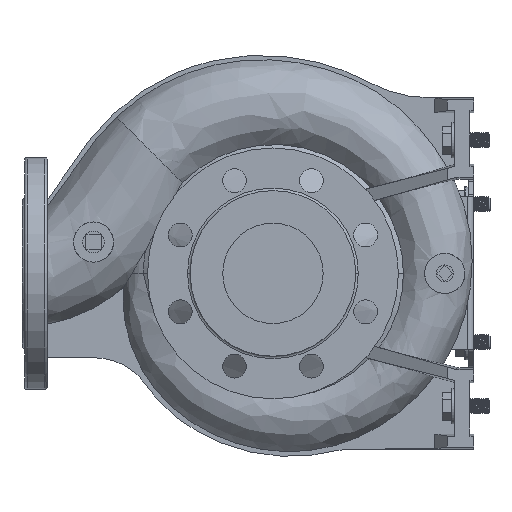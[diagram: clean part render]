
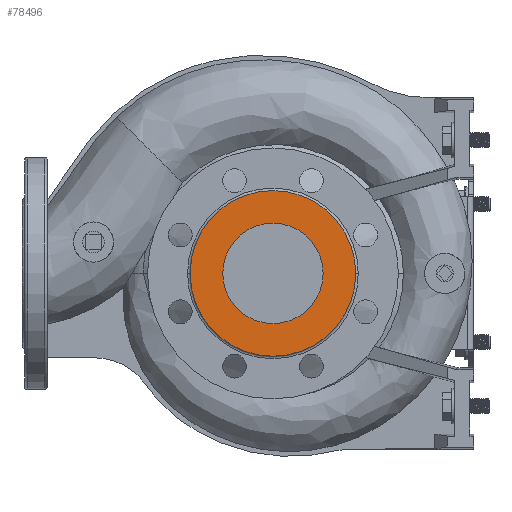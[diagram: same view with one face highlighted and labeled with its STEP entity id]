
A CAD part, left-side view. The second image highlights one B-rep face of the part: STEP entity #78496.
In plain terms, the highlighted planar face has unit normal (-1, 0, 0).
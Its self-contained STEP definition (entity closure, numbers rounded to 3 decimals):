
#5724 = EDGE_LOOP ( 'NONE', ( #145766, #117015 ) ) ;
#10283 = VERTEX_POINT ( 'NONE', #70805 ) ;
#15255 = DIRECTION ( 'NONE',  ( 1., 0., 0. ) ) ;
#17214 = ORIENTED_EDGE ( 'NONE', *, *, #145870, .F. ) ;
#22534 = EDGE_CURVE ( 'NONE', #10283, #36223, #121481, .T. ) ;
#22563 = CARTESIAN_POINT ( 'NONE',  ( -100., -66., 0. ) ) ;
#25198 = VERTEX_POINT ( 'NONE', #22563 ) ;
#30906 = AXIS2_PLACEMENT_3D ( 'NONE', #174457, #67797, #38434 ) ;
#35270 = PLANE ( 'NONE',  #93888 ) ;
#36223 = VERTEX_POINT ( 'NONE', #95816 ) ;
#38434 = DIRECTION ( 'NONE',  ( 0., 1., 0. ) ) ;
#40173 = AXIS2_PLACEMENT_3D ( 'NONE', #89884, #179965, #149645 ) ;
#43651 = DIRECTION ( 'NONE',  ( 0., 1., 0. ) ) ;
#48048 = DIRECTION ( 'NONE',  ( -1., 0., 0. ) ) ;
#55916 = AXIS2_PLACEMENT_3D ( 'NONE', #133612, #190416, #160122 ) ;
#61759 = FACE_OUTER_BOUND ( 'NONE', #149338, .T. ) ;
#67023 = CIRCLE ( 'NONE', #176435, 66. ) ;
#67797 = DIRECTION ( 'NONE',  ( 1., 0., 0. ) ) ;
#70805 = CARTESIAN_POINT ( 'NONE',  ( -100., -40., 0. ) ) ;
#72701 = EDGE_CURVE ( 'NONE', #36223, #10283, #140321, .T. ) ;
#78496 = ADVANCED_FACE ( 'NONE', ( #167461, #61759 ), #35270, .T. ) ;
#89884 = CARTESIAN_POINT ( 'NONE',  ( -100., 0., 0. ) ) ;
#93046 = DIRECTION ( 'NONE',  ( 0., -1., 0. ) ) ;
#93888 = AXIS2_PLACEMENT_3D ( 'NONE', #123398, #48048, #93046 ) ;
#95816 = CARTESIAN_POINT ( 'NONE',  ( -100., 40., 0. ) ) ;
#104418 = EDGE_CURVE ( 'NONE', #25198, #148317, #67023, .T. ) ;
#117015 = ORIENTED_EDGE ( 'NONE', *, *, #72701, .F. ) ;
#121481 = CIRCLE ( 'NONE', #40173, 40. ) ;
#123398 = CARTESIAN_POINT ( 'NONE',  ( -100., 0., 0. ) ) ;
#133612 = CARTESIAN_POINT ( 'NONE',  ( -100., 0., 0. ) ) ;
#134675 = CARTESIAN_POINT ( 'NONE',  ( -100., 0., 0. ) ) ;
#140321 = CIRCLE ( 'NONE', #55916, 40. ) ;
#145766 = ORIENTED_EDGE ( 'NONE', *, *, #22534, .F. ) ;
#145870 = EDGE_CURVE ( 'NONE', #148317, #25198, #171599, .T. ) ;
#148317 = VERTEX_POINT ( 'NONE', #185899 ) ;
#149338 = EDGE_LOOP ( 'NONE', ( #17214, #180065 ) ) ;
#149645 = DIRECTION ( 'NONE',  ( 0., -1., 0. ) ) ;
#160122 = DIRECTION ( 'NONE',  ( 0., -1., 0. ) ) ;
#167461 = FACE_BOUND ( 'NONE', #5724, .T. ) ;
#171599 = CIRCLE ( 'NONE', #30906, 66. ) ;
#174457 = CARTESIAN_POINT ( 'NONE',  ( -100., 0., 0. ) ) ;
#176435 = AXIS2_PLACEMENT_3D ( 'NONE', #134675, #15255, #43651 ) ;
#179965 = DIRECTION ( 'NONE',  ( -1., 0., 0. ) ) ;
#180065 = ORIENTED_EDGE ( 'NONE', *, *, #104418, .F. ) ;
#185899 = CARTESIAN_POINT ( 'NONE',  ( -100., 66., 0. ) ) ;
#190416 = DIRECTION ( 'NONE',  ( -1., 0., 0. ) ) ;
